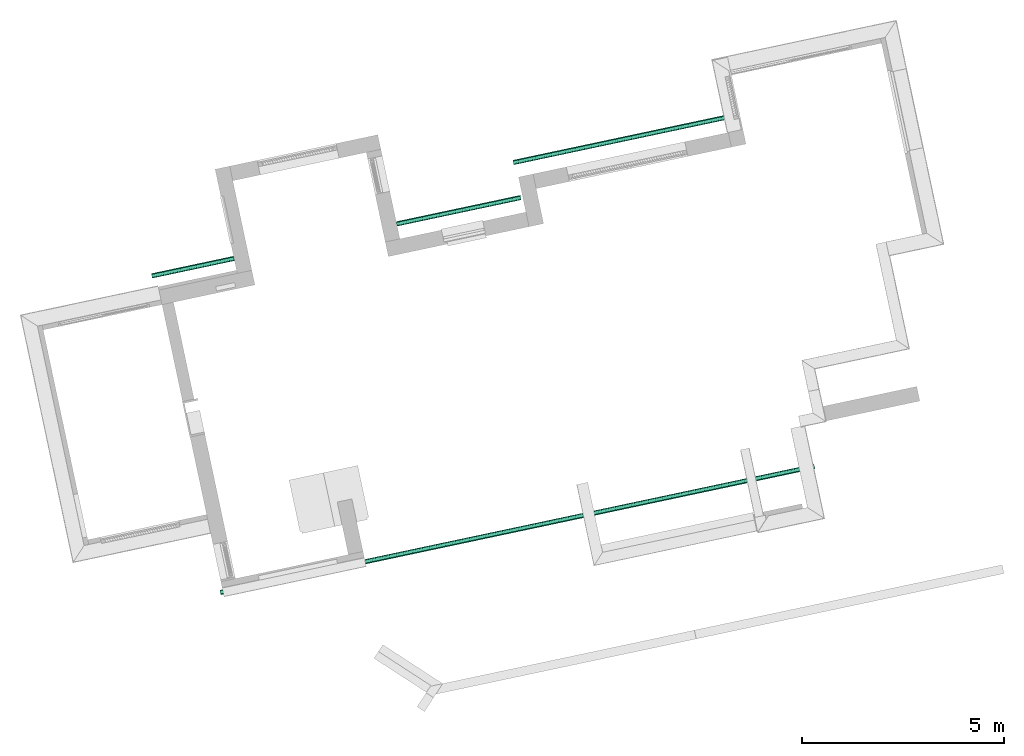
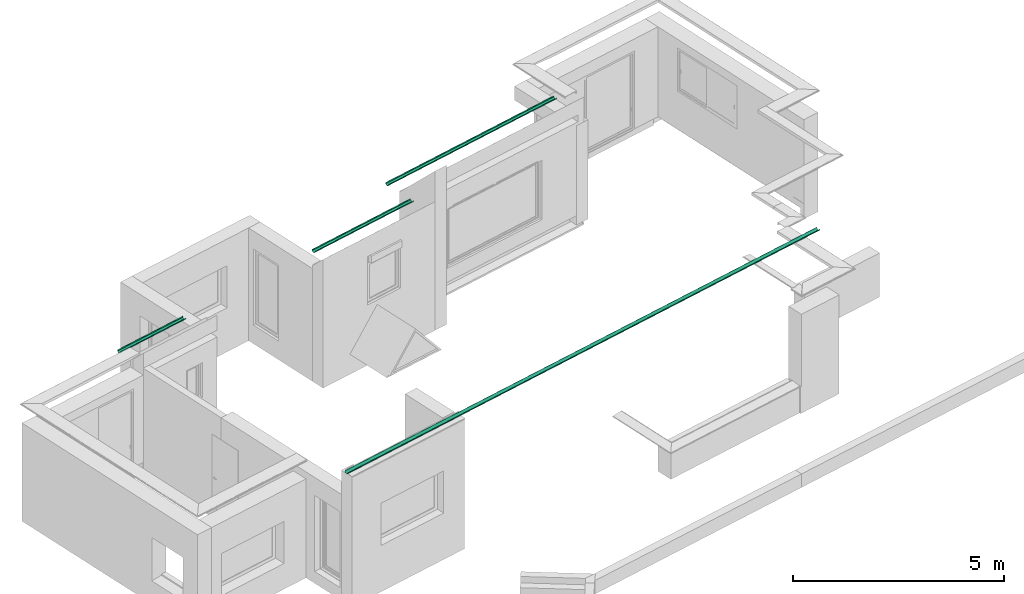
# One storey, part 15 of 22: 2 flow segments.
"""IFC2X3 building model written with IfcOpenShell, lengths in centimetres."""

from ifc_helpers import new_model, entity, si_unit, converted_unit, derived_unit, direction, frame, frame_2d, origin, place, context, subcontext, project, spatial, polyline, circle_curve, parameter, trimmed, segment, composite_curve, outline, extrude, source, transform, mapped, type_object, type_shapes, element, save


model = new_model("IFC2X3")

# Units and contexts
model_context = context("Model", 3, precision=0.001, world=origin(), true_north=direction((6.12303176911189e-17, 1.0)))
body_context = subcontext(model_context, "Body", "Model", "MODEL_VIEW")
ifc_project = project(units=[si_unit("LENGTHUNIT", "METRE", prefix="CENTI"), si_unit("AREAUNIT", "SQUARE_METRE"), si_unit("VOLUMEUNIT", "CUBIC_METRE"), converted_unit("PLANEANGLEUNIT", "DEGREE", entity("IfcRatioMeasure", 0.0174532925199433), si_unit("PLANEANGLEUNIT", "RADIAN"), dimensions=[0, 0, 0, 0, 0, 0, 0]), si_unit("MASSUNIT", "GRAM", prefix="KILO"), derived_unit("MASSDENSITYUNIT", [(si_unit("MASSUNIT", "GRAM", prefix="KILO"), 1), (si_unit("LENGTHUNIT", "METRE"), -3)]), derived_unit("IONCONCENTRATIONUNIT", [(si_unit("MASSUNIT", "GRAM", prefix="KILO"), 1), (si_unit("LENGTHUNIT", "METRE"), -3)]), derived_unit("MOMENTOFINERTIAUNIT", [(si_unit("LENGTHUNIT", "METRE"), 4)]), si_unit("TIMEUNIT", "SECOND"), si_unit("FREQUENCYUNIT", "HERTZ"), si_unit("THERMODYNAMICTEMPERATUREUNIT", "DEGREE_CELSIUS"), derived_unit("THERMALTRANSMITTANCEUNIT", [(si_unit("MASSUNIT", "GRAM", prefix="KILO"), 1), (si_unit("THERMODYNAMICTEMPERATUREUNIT", "KELVIN"), -1), (si_unit("TIMEUNIT", "SECOND"), -3)]), derived_unit("THERMALCONDUCTANCEUNIT", [(si_unit("MASSUNIT", "GRAM", prefix="KILO"), 1), (si_unit("THERMODYNAMICTEMPERATUREUNIT", "KELVIN"), -1), (si_unit("TIMEUNIT", "SECOND"), -3), (si_unit("LENGTHUNIT", "METRE"), 1)]), derived_unit("VOLUMETRICFLOWRATEUNIT", [(si_unit("LENGTHUNIT", "METRE"), 3), (si_unit("TIMEUNIT", "SECOND"), -1)]), derived_unit("MASSFLOWRATEUNIT", [(si_unit("MASSUNIT", "GRAM", prefix="KILO"), 1), (si_unit("TIMEUNIT", "SECOND"), -1)]), derived_unit("ROTATIONALFREQUENCYUNIT", [(si_unit("TIMEUNIT", "SECOND"), -1)]), si_unit("ELECTRICCURRENTUNIT", "AMPERE"), si_unit("ELECTRICVOLTAGEUNIT", "VOLT"), si_unit("POWERUNIT", "WATT"), si_unit("FORCEUNIT", "NEWTON", prefix="KILO"), si_unit("ILLUMINANCEUNIT", "LUX"), si_unit("LUMINOUSFLUXUNIT", "LUMEN"), si_unit("LUMINOUSINTENSITYUNIT", "CANDELA"), derived_unit("USERDEFINED", [(si_unit("MASSUNIT", "GRAM", prefix="KILO"), -1), (si_unit("LENGTHUNIT", "METRE"), -2), (si_unit("TIMEUNIT", "SECOND"), 3), (si_unit("LUMINOUSFLUXUNIT", "LUMEN"), 1)]), derived_unit("USERDEFINED", [(si_unit("MASSUNIT", "GRAM", prefix="KILO"), 1), (si_unit("TIMEUNIT", "SECOND"), -3), (si_unit("LENGTHUNIT", "METRE"), 3), (si_unit("ELECTRICCURRENTUNIT", "AMPERE"), -2)]), derived_unit("SOUNDPOWERUNIT", [(si_unit("MASSUNIT", "GRAM", prefix="KILO"), 1), (si_unit("TIMEUNIT", "SECOND"), -3), (si_unit("LENGTHUNIT", "METRE"), 2)]), derived_unit("SOUNDPRESSUREUNIT", [(si_unit("MASSUNIT", "GRAM", prefix="KILO"), 1), (si_unit("LENGTHUNIT", "METRE"), -1), (si_unit("TIMEUNIT", "SECOND"), -2)]), derived_unit("LINEARVELOCITYUNIT", [(si_unit("LENGTHUNIT", "METRE"), 1), (si_unit("TIMEUNIT", "SECOND"), -1)]), si_unit("PRESSUREUNIT", "PASCAL"), derived_unit("USERDEFINED", [(si_unit("MASSUNIT", "GRAM", prefix="KILO"), 1), (si_unit("LENGTHUNIT", "METRE"), -2), (si_unit("TIMEUNIT", "SECOND"), -2)]), derived_unit("LINEARFORCEUNIT", [(si_unit("MASSUNIT", "GRAM", prefix="KILO"), 1), (si_unit("TIMEUNIT", "SECOND"), -2)]), derived_unit("PLANARFORCEUNIT", [(si_unit("MASSUNIT", "GRAM", prefix="KILO"), 1), (si_unit("LENGTHUNIT", "METRE"), -1), (si_unit("TIMEUNIT", "SECOND"), -2)]), derived_unit("SPECIFICHEATCAPACITYUNIT", [(si_unit("THERMODYNAMICTEMPERATUREUNIT", "KELVIN"), -1), (si_unit("LENGTHUNIT", "METRE"), 2), (si_unit("TIMEUNIT", "SECOND"), -2)]), derived_unit("HEATINGVALUEUNIT", [(si_unit("LENGTHUNIT", "METRE"), 2), (si_unit("TIMEUNIT", "SECOND"), -2)]), derived_unit("VAPORPERMEABILITYUNIT", [(si_unit("LENGTHUNIT", "METRE"), -1), (si_unit("TIMEUNIT", "SECOND"), 1)]), derived_unit("DYNAMICVISCOSITYUNIT", [(si_unit("MASSUNIT", "GRAM", prefix="KILO"), 1), (si_unit("TIMEUNIT", "SECOND"), -1), (si_unit("LENGTHUNIT", "METRE"), -1)]), derived_unit("THERMALEXPANSIONCOEFFICIENTUNIT", [(si_unit("THERMODYNAMICTEMPERATUREUNIT", "KELVIN"), -1)]), derived_unit("MODULUSOFELASTICITYUNIT", [(si_unit("MASSUNIT", "GRAM", prefix="KILO"), 1), (si_unit("LENGTHUNIT", "METRE"), -1), (si_unit("TIMEUNIT", "SECOND"), -2)]), derived_unit("ISOTHERMALMOISTURECAPACITYUNIT", [(si_unit("LENGTHUNIT", "METRE"), 3), (si_unit("MASSUNIT", "GRAM", prefix="KILO"), -1)]), derived_unit("MOISTUREDIFFUSIVITYUNIT", [(si_unit("TIMEUNIT", "SECOND"), -1), (si_unit("LENGTHUNIT", "METRE"), 2)])], contexts=[model_context])

# Site, building, storey
site_placement = place(None, frame((14083.8920177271, -6853.25409548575, 6900.0), z_axis=(0.0, 0.0, 1.0), x_axis=(0.978188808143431, 0.207717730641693, 0.0)))
site = spatial("IfcSite", under=ifc_project, at=site_placement, Name="Surface", CompositionType="ELEMENT")
building_placement = place(site_placement, origin())
building = spatial("IfcBuilding", under=site, at=building_placement, CompositionType="ELEMENT")
storey_placement = place(building_placement, frame((0.0, 0.0, -17.0)))
storey = spatial("IfcBuildingStorey", under=building, at=storey_placement, Name="Rez de chaussée (SD)", CompositionType="ELEMENT", Elevation=-16.9999999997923)

# Flow segments
pipe_segment_type_1 = type_object("IfcPipeSegmentType", Name="Gouttière:Gouttière_ronde", PredefinedType="GUTTER")
shared_shape_1 = source(origin(), body_context, "Body", "SweptSolid", [
    extrude(outline(composite_curve([segment(polyline([(-4.5563106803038, -0.61733415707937), (-4.0563106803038, -0.61733415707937)]), True, "CONTINUOUS"), segment(polyline([(-4.0563106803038, -0.61733415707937), (-2.12794785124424, 1.00416688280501)]), True, "CONTINUOUS"), segment(polyline([(-2.12794785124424, 1.00416688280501), (-3.64680942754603, 1.46516974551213)]), True, "CONTINUOUS"), segment(trimmed(circle_curve(frame_2d((1.44368931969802, -0.61733415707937), x_axis=(-1.0, 0.0)), 5.5), [parameter(180.0)], [parameter(337.750714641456)], True, "PARAMETER"), False, "CONTINUOUS"), segment(polyline([(6.94368931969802, -0.61733415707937), (7.44368931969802, -0.61733415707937)]), True, "CONTINUOUS"), segment(trimmed(circle_curve(frame_2d((1.44368931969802, -0.61733415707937), x_axis=(-1.0, 0.0)), 6.0), [parameter(180.0)], [parameter(0.0)], True, "PARAMETER"), True, "CONTINUOUS")], self_intersect=False)), frame((-6812.9551432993, 15579.0761419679, 321.208567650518), z_axis=(1.0, 0.0, 0.0), x_axis=(0.0, -1.0, 0.0)), (0.0, 0.0, 1.0), 536.14192420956),
    extrude(outline(composite_curve([segment(polyline([(-4.5563106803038, -0.61733415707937), (-4.0563106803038, -0.61733415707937)]), True, "CONTINUOUS"), segment(polyline([(-4.0563106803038, -0.61733415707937), (-2.12794785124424, 1.00416688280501)]), True, "CONTINUOUS"), segment(polyline([(-2.12794785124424, 1.00416688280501), (-3.64680942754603, 1.46516974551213)]), True, "CONTINUOUS"), segment(trimmed(circle_curve(frame_2d((1.4436893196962, -0.61733415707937), x_axis=(-1.0, 0.0)), 5.5), [parameter(180.0)], [parameter(337.750714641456)], True, "PARAMETER"), False, "CONTINUOUS"), segment(polyline([(6.94368931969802, -0.61733415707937), (7.44368931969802, -0.61733415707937)]), True, "CONTINUOUS"), segment(trimmed(circle_curve(frame_2d((1.4436893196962, -0.61733415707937), x_axis=(-1.0, 0.0)), 6.0), [parameter(180.0)], [parameter(0.0)], True, "PARAMETER"), True, "CONTINUOUS")], self_intersect=False)), frame((-7126.9551432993, 15490.3828338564, 321.208567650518), z_axis=(1.0, 0.0, 0.0), x_axis=(0.0, -1.0, 0.0)), (0.0, 0.0, 1.0), 314.0),
    extrude(outline(composite_curve([segment(polyline([(-4.5563106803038, -0.61733415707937), (-4.0563106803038, -0.61733415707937)]), True, "CONTINUOUS"), segment(polyline([(-4.0563106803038, -0.61733415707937), (-2.12794785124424, 1.00416688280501)]), True, "CONTINUOUS"), segment(polyline([(-2.12794785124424, 1.00416688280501), (-3.64680942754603, 1.46516974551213)]), True, "CONTINUOUS"), segment(trimmed(circle_curve(frame_2d((1.4436893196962, -0.61733415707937), x_axis=(-1.0, 0.0)), 5.5), [parameter(180.0)], [parameter(337.750714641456)], True, "PARAMETER"), False, "CONTINUOUS"), segment(polyline([(6.94368931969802, -0.61733415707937), (7.44368931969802, -0.61733415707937)]), True, "CONTINUOUS"), segment(trimmed(circle_curve(frame_2d((1.4436893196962, -0.61733415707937), x_axis=(-1.0, 0.0)), 6.0), [parameter(180.0)], [parameter(0.0)], True, "PARAMETER"), True, "CONTINUOUS")], self_intersect=False)), frame((-7746.9551432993, 15490.3828338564, 321.208567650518), z_axis=(1.0, 0.0, 0.0), x_axis=(0.0, -1.0, 0.0)), (0.0, 0.0, 1.0), 208.157995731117),
])
type_shapes(pipe_segment_type_1, [shared_shape_1])
flow_segment_1_placement = place(storey_placement, origin())
element("IfcFlowSegment", 1, at=flow_segment_1_placement, inside=storey, type_object=pipe_segment_type_1, Name="Gouttière:Gouttière_ronde", ObjectType="Gouttière:Gouttière_ronde", context=body_context, shape_type="MappedRepresentation", body=[
    mapped(shared_shape_1, transform((0.0, 0.0, 0.0), scale=1.0)),
])
pipe_segment_type_2 = type_object("IfcPipeSegmentType", Name="Gouttière:Gouttière_ronde", PredefinedType="GUTTER")
shared_shape_2 = source(origin(), body_context, "Body", "SweptSolid", [
    extrude(outline(composite_curve([segment(trimmed(circle_curve(frame_2d((-1.44368931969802, -0.617334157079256), x_axis=(1.0, 0.0)), 6.0), [parameter(0.0)], [parameter(180.0)], True, "PARAMETER"), True, "CONTINUOUS"), segment(polyline([(-7.44368931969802, -0.617334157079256), (-6.94368931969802, -0.617334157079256)]), True, "CONTINUOUS"), segment(trimmed(circle_curve(frame_2d((-1.44368931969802, -0.617334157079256), x_axis=(1.0, 0.0)), 5.5), [parameter(22.2492853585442)], [parameter(180.0)], True, "PARAMETER"), False, "CONTINUOUS"), segment(polyline([(3.64680942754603, 1.46516974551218), (2.12794785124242, 1.00416688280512)]), True, "CONTINUOUS"), segment(polyline([(2.12794785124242, 1.00416688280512), (4.05631068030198, -0.617334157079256)]), True, "CONTINUOUS"), segment(polyline([(4.05631068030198, -0.617334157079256), (4.55631068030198, -0.617334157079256)]), True, "CONTINUOUS")], self_intersect=False)), frame((-7743.9551432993, 14685.2287885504, 387.634974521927), z_axis=(1.0, 0.0, 0.0), x_axis=(0.0, -1.0, 0.0)), (0.0, 0.0, 1.0), 1504.14192420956),
])
type_shapes(pipe_segment_type_2, [shared_shape_2])
flow_segment_2_placement = place(storey_placement, origin())
element("IfcFlowSegment", 2, at=flow_segment_2_placement, inside=storey, type_object=pipe_segment_type_2, Name="Gouttière:Gouttière_ronde", ObjectType="Gouttière:Gouttière_ronde", context=body_context, shape_type="MappedRepresentation", body=[
    mapped(shared_shape_2, transform((0.0, 0.0, 0.0), scale=1.0)),
])

save(model, "model.ifc")
